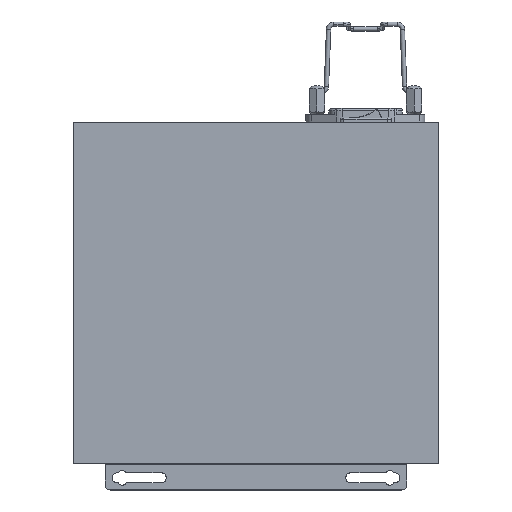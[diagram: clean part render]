
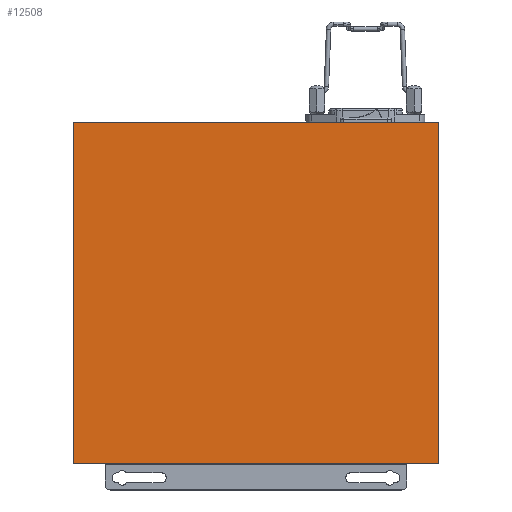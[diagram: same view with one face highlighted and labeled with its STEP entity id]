
A CAD part, top view. The second image highlights one B-rep face of the part: STEP entity #12508.
In plain terms, the highlighted planar face has unit normal (0, 0, 1).
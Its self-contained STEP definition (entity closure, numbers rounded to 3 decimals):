
#3583=DIRECTION('',(0.,1.,0.));
#3584=VECTOR('',#3583,140.);
#3585=CARTESIAN_POINT('',(-141.45,-126.159,
0.));
#3586=LINE('',#3585,#3584);
#3595=DIRECTION('',(0.,1.,0.));
#3596=VECTOR('',#3595,140.);
#3597=CARTESIAN_POINT('',(8.55,-126.159,
0.));
#3598=LINE('',#3597,#3596);
#3599=DIRECTION('',(1.,0.,0.));
#3600=VECTOR('',#3599,150.);
#3601=CARTESIAN_POINT('',(-141.45,-126.159,
0.));
#3602=LINE('',#3601,#3600);
#3603=DIRECTION('',(-1.,0.,0.));
#3604=VECTOR('',#3603,150.);
#3605=CARTESIAN_POINT('',(8.55,13.841,0.));
#3606=LINE('',#3605,#3604);
#5983=CARTESIAN_POINT('',(8.55,-126.159,
0.));
#5984=VERTEX_POINT('',#5983);
#6021=CARTESIAN_POINT('',(8.55,13.841,0.));
#6022=VERTEX_POINT('',#6021);
#6063=CARTESIAN_POINT('',(-141.45,-126.159,
0.));
#6064=VERTEX_POINT('',#6063);
#6077=CARTESIAN_POINT('',(-141.45,13.841,
0.));
#6078=VERTEX_POINT('',#6077);
#12495=CARTESIAN_POINT('',(-66.45,-56.159,
0.));
#12496=DIRECTION('',(0.,0.,-1.));
#12497=DIRECTION('',(0.,-1.,0.));
#12498=AXIS2_PLACEMENT_3D('',#12495,#12496,#12497);
#12499=PLANE('',#12498);
#12501=ORIENTED_EDGE('',*,*,#12500,.F.);
#12502=ORIENTED_EDGE('',*,*,#7724,.F.);
#12503=ORIENTED_EDGE('',*,*,#12486,.T.);
#12505=ORIENTED_EDGE('',*,*,#12504,.F.);
#12506=EDGE_LOOP('',(#12501,#12502,#12503,#12505));
#12507=FACE_OUTER_BOUND('',#12506,.F.);
#12508=ADVANCED_FACE('',(#12507),#12499,.F.);
#7724=EDGE_CURVE('',#6064,#5984,#3602,.T.);
#12486=EDGE_CURVE('',#6064,#6078,#3586,.T.);
#12500=EDGE_CURVE('',#5984,#6022,#3598,.T.);
#12504=EDGE_CURVE('',#6022,#6078,#3606,.T.);
